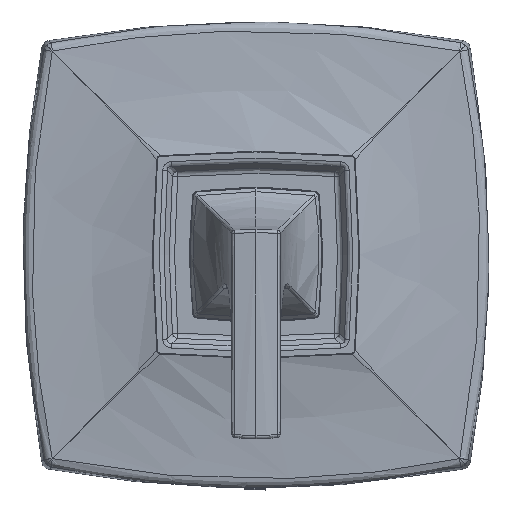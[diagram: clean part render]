
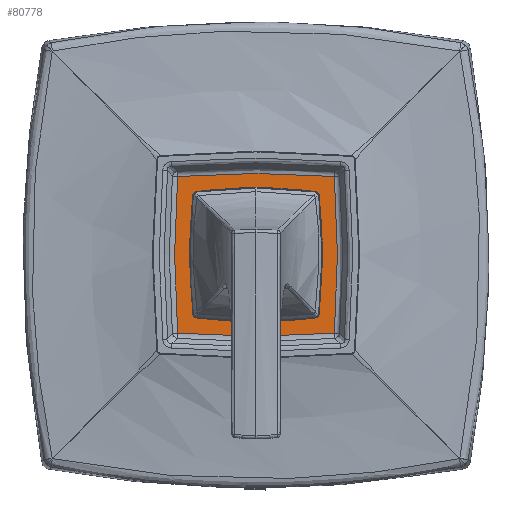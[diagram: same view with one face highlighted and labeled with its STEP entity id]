
A CAD part, top view. The second image highlights one B-rep face of the part: STEP entity #80778.
In plain terms, the highlighted planar face has unit normal (0, 0, 1).
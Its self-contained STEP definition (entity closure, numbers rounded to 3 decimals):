
#1071 = B_SPLINE_CURVE_WITH_KNOTS ( 'NONE', 3,
 ( #17013, #45367, #73673, #65783, #81525, #51410, #10048, #16096 ),
 .UNSPECIFIED., .F., .F.,
 ( 4, 2, 2, 4 ),
 ( 0., 0.016, 0.032, 0.064 ),
 .UNSPECIFIED. ) ;
#3836 = DIRECTION ( 'NONE',  ( 0., 0., -1. ) ) ;
#4770 = DIRECTION ( 'NONE',  ( 0., -1., 0. ) ) ;
#6535 = CARTESIAN_POINT ( 'NONE',  ( -1.261, -1.261, 0.418 ) ) ;
#7423 = B_SPLINE_CURVE_WITH_KNOTS ( 'NONE', 3,
 ( #39634, #89250, #68377, #47033, #26137, #44870, #30942, #72725 ),
 .UNSPECIFIED., .F., .F.,
 ( 4, 2, 2, 4 ),
 ( 0., 0.016, 0.032, 0.064 ),
 .UNSPECIFIED. ) ;
#8485 = DIRECTION ( 'NONE',  ( 0., -1., 0. ) ) ;
#8666 = CARTESIAN_POINT ( 'NONE',  ( 1.261, -1.261, 0.418 ) ) ;
#9702 = CARTESIAN_POINT ( 'NONE',  ( -1.29, 0.841, 0.418 ) ) ;
#10048 = CARTESIAN_POINT ( 'NONE',  ( -0.842, 1.294, 0.418 ) ) ;
#12520 = EDGE_LOOP ( 'NONE', ( #32311, #18356 ) ) ;
#16096 = CARTESIAN_POINT ( 'NONE',  ( -1.261, 1.261, 0.418 ) ) ;
#16594 = CIRCLE ( 'NONE', #50758, 1.025 ) ;
#16984 = VERTEX_POINT ( 'NONE', #62231 ) ;
#17013 = CARTESIAN_POINT ( 'NONE',  ( 1.261, 1.261, 0.418 ) ) ;
#17754 = CARTESIAN_POINT ( 'NONE',  ( -7.463, 7.463, 0.418 ) ) ;
#17775 = EDGE_CURVE ( 'NONE', #52344, #16984, #1071, .T. ) ;
#18356 = ORIENTED_EDGE ( 'NONE', *, *, #89991, .F. ) ;
#21038 = DIRECTION ( 'NONE',  ( 0., 0., 1. ) ) ;
#22264 = CARTESIAN_POINT ( 'NONE',  ( -1.31, -0.421, 0.418 ) ) ;
#22600 = CARTESIAN_POINT ( 'NONE',  ( -0.421, -1.306, 0.418 ) ) ;
#25533 = CIRCLE ( 'NONE', #72992, 1.025 ) ;
#26137 = CARTESIAN_POINT ( 'NONE',  ( 1.31, -0.21, 0.418 ) ) ;
#26714 = ORIENTED_EDGE ( 'NONE', *, *, #17775, .T. ) ;
#29091 = VERTEX_POINT ( 'NONE', #58806 ) ;
#29583 = CARTESIAN_POINT ( 'NONE',  ( -0.21, -1.31, 0.418 ) ) ;
#29763 = EDGE_CURVE ( 'NONE', #29091, #46337, #25533, .T. ) ;
#30173 = CARTESIAN_POINT ( 'NONE',  ( -1.306, 0.421, 0.418 ) ) ;
#30942 = CARTESIAN_POINT ( 'NONE',  ( 1.294, 0.842, 0.418 ) ) ;
#31068 = AXIS2_PLACEMENT_3D ( 'NONE', #17754, #3836, #38236 ) ;
#31719 = PLANE ( 'NONE',  #31068 ) ;
#32058 = VERTEX_POINT ( 'NONE', #6535 ) ;
#32311 = ORIENTED_EDGE ( 'NONE', *, *, #29763, .F. ) ;
#34270 = VERTEX_POINT ( 'NONE', #87595 ) ;
#35626 = B_SPLINE_CURVE_WITH_KNOTS ( 'NONE', 3,
 ( #38062, #79352, #9702, #30173, #79803, #22264, #66341, #64974 ),
 .UNSPECIFIED., .F., .F.,
 ( 4, 2, 2, 4 ),
 ( 0., 0.016, 0.032, 0.064 ),
 .UNSPECIFIED. ) ;
#38062 = CARTESIAN_POINT ( 'NONE',  ( -1.261, 1.261, 0.418 ) ) ;
#38236 = DIRECTION ( 'NONE',  ( -1., 0., 0. ) ) ;
#39634 = CARTESIAN_POINT ( 'NONE',  ( 1.261, -1.261, 0.418 ) ) ;
#43791 = CARTESIAN_POINT ( 'NONE',  ( 0., 0., 0.418 ) ) ;
#44737 = ORIENTED_EDGE ( 'NONE', *, *, #48290, .T. ) ;
#44870 = CARTESIAN_POINT ( 'NONE',  ( 1.31, 0.421, 0.418 ) ) ;
#45290 = EDGE_CURVE ( 'NONE', #16984, #32058, #35626, .T. ) ;
#45367 = CARTESIAN_POINT ( 'NONE',  ( 1.051, 1.278, 0.418 ) ) ;
#46337 = VERTEX_POINT ( 'NONE', #70211 ) ;
#47033 = CARTESIAN_POINT ( 'NONE',  ( 1.306, -0.421, 0.418 ) ) ;
#48290 = EDGE_CURVE ( 'NONE', #32058, #34270, #73167, .T. ) ;
#50475 = CARTESIAN_POINT ( 'NONE',  ( -1.051, -1.278, 0.418 ) ) ;
#50758 = AXIS2_PLACEMENT_3D ( 'NONE', #43791, #21038, #8485 ) ;
#51410 = CARTESIAN_POINT ( 'NONE',  ( -0.421, 1.31, 0.418 ) ) ;
#52344 = VERTEX_POINT ( 'NONE', #57032 ) ;
#52876 = ORIENTED_EDGE ( 'NONE', *, *, #45290, .T. ) ;
#53054 = FACE_BOUND ( 'NONE', #12520, .T. ) ;
#53427 = ORIENTED_EDGE ( 'NONE', *, *, #88339, .T. ) ;
#53960 = FACE_OUTER_BOUND ( 'NONE', #66965, .T. ) ;
#57032 = CARTESIAN_POINT ( 'NONE',  ( 1.261, 1.261, 0.418 ) ) ;
#57443 = CARTESIAN_POINT ( 'NONE',  ( 0.421, -1.31, 0.418 ) ) ;
#58806 = CARTESIAN_POINT ( 'NONE',  ( 0., -1.025, 0.418 ) ) ;
#62231 = CARTESIAN_POINT ( 'NONE',  ( -1.261, 1.261, 0.418 ) ) ;
#64974 = CARTESIAN_POINT ( 'NONE',  ( -1.261, -1.261, 0.418 ) ) ;
#65783 = CARTESIAN_POINT ( 'NONE',  ( 0.421, 1.306, 0.418 ) ) ;
#66341 = CARTESIAN_POINT ( 'NONE',  ( -1.294, -0.842, 0.418 ) ) ;
#66965 = EDGE_LOOP ( 'NONE', ( #53427, #26714, #52876, #44737 ) ) ;
#68377 = CARTESIAN_POINT ( 'NONE',  ( 1.29, -0.841, 0.418 ) ) ;
#70211 = CARTESIAN_POINT ( 'NONE',  ( 0., 1.025, 0.418 ) ) ;
#72295 = CARTESIAN_POINT ( 'NONE',  ( -1.261, -1.261, 0.418 ) ) ;
#72725 = CARTESIAN_POINT ( 'NONE',  ( 1.261, 1.261, 0.418 ) ) ;
#72992 = AXIS2_PLACEMENT_3D ( 'NONE', #88803, #82295, #4770 ) ;
#73167 = B_SPLINE_CURVE_WITH_KNOTS ( 'NONE', 3,
 ( #72295, #50475, #79229, #22600, #29583, #57443, #85743, #8666 ),
 .UNSPECIFIED., .F., .F.,
 ( 4, 2, 2, 4 ),
 ( 0., 0.016, 0.032, 0.064 ),
 .UNSPECIFIED. ) ;
#73673 = CARTESIAN_POINT ( 'NONE',  ( 0.841, 1.29, 0.418 ) ) ;
#79229 = CARTESIAN_POINT ( 'NONE',  ( -0.841, -1.29, 0.418 ) ) ;
#79352 = CARTESIAN_POINT ( 'NONE',  ( -1.278, 1.051, 0.418 ) ) ;
#79803 = CARTESIAN_POINT ( 'NONE',  ( -1.31, 0.21, 0.418 ) ) ;
#80778 = ADVANCED_FACE ( 'NONE', ( #53054, #53960 ), #31719, .F. ) ;
#81525 = CARTESIAN_POINT ( 'NONE',  ( 0.21, 1.31, 0.418 ) ) ;
#82295 = DIRECTION ( 'NONE',  ( 0., 0., 1. ) ) ;
#85743 = CARTESIAN_POINT ( 'NONE',  ( 0.842, -1.294, 0.418 ) ) ;
#87595 = CARTESIAN_POINT ( 'NONE',  ( 1.261, -1.261, 0.418 ) ) ;
#88339 = EDGE_CURVE ( 'NONE', #34270, #52344, #7423, .T. ) ;
#88803 = CARTESIAN_POINT ( 'NONE',  ( 0., 0., 0.418 ) ) ;
#89250 = CARTESIAN_POINT ( 'NONE',  ( 1.278, -1.051, 0.418 ) ) ;
#89991 = EDGE_CURVE ( 'NONE', #46337, #29091, #16594, .T. ) ;
